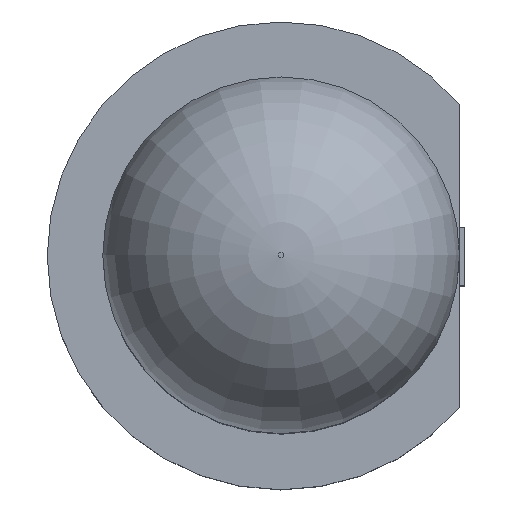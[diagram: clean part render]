
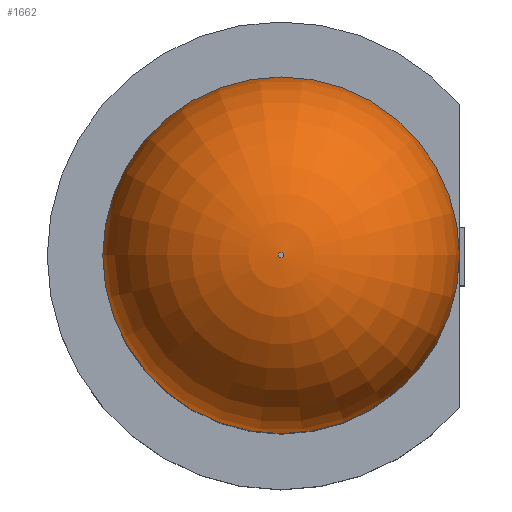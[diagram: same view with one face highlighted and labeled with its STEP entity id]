
A CAD part, top view. The second image highlights one B-rep face of the part: STEP entity #1662.
In plain terms, the highlighted toroidal (fillet/blend) face has major radius 0.025 mm and minor radius 1.5 mm.
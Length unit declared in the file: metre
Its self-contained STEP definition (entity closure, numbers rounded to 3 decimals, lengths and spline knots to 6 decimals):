
#39=DEGENERATE_TOROIDAL_SURFACE('',#1803,0.000025,0.0015,.T.);
#123=CIRCLE('',#1800,0.001525);
#124=CIRCLE('',#1802,0.000025);
#262=ORIENTED_EDGE('',*,*,#702,.T.);
#263=ORIENTED_EDGE('',*,*,#701,.T.);
#701=EDGE_CURVE('',#929,#929,#123,.T.);
#702=EDGE_CURVE('',#930,#930,#124,.T.);
#929=VERTEX_POINT('',#2392);
#930=VERTEX_POINT('',#2395);
#1400=EDGE_LOOP('',(#262));
#1401=EDGE_LOOP('',(#263));
#1503=FACE_BOUND('',#1400,.T.);
#1504=FACE_BOUND('',#1401,.T.);
#1662=ADVANCED_FACE('',(#1503,#1504),#39,.T.);
#1800=AXIS2_PLACEMENT_3D('',#2391,#1964,#1965);
#1802=AXIS2_PLACEMENT_3D('',#2394,#1968,#1969);
#1803=AXIS2_PLACEMENT_3D('',#2396,#1970,#1971);
#1964=DIRECTION('',(0.,0.,1.));
#1965=DIRECTION('',(1.,0.,0.));
#1968=DIRECTION('',(0.,0.,-1.));
#1969=DIRECTION('',(-1.,0.,0.));
#1970=DIRECTION('',(0.,0.,-1.));
#1971=DIRECTION('',(-1.,0.,0.));
#2391=CARTESIAN_POINT('',(0.,0.,0.0027));
#2392=CARTESIAN_POINT('',(0.001525,0.,0.0027));
#2394=CARTESIAN_POINT('',(0.,0.,0.0042));
#2395=CARTESIAN_POINT('',(-0.000025,0.,0.0042));
#2396=CARTESIAN_POINT('',(0.,0.,0.0027));
